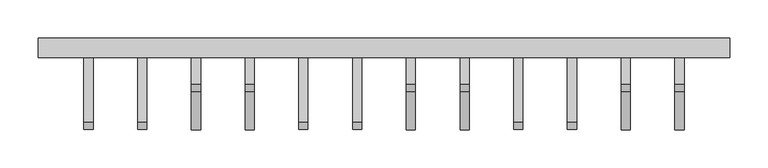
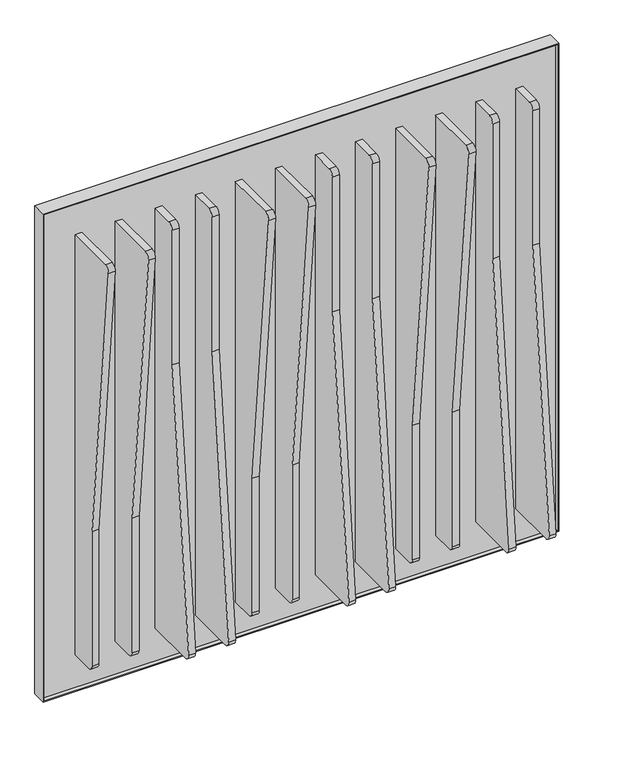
"""IFC4 building model written with IfcOpenShell, lengths in millimetres: proxy geometry, Frames_Plungle 4.3dm."""

from ifc_helpers import new_model, si_unit, point, frame, frame_2d, origin, place, context, project, spatial, polyline, circle_curve, trimmed, segment, composite_curve, outline, extrude, source, transform, mapped, element, save


def generic_models_126d4670(model_context):
    return source(origin(), model_context, "Body", "SweptSolid", [
        extrude(outline(composite_curve([segment(polyline([(99.527821, 599.6236441), (99.527821, 848.9350413), (49.8028267, 1356.5829839)]), True, "CONTINUOUS"), segment(trimmed(circle_curve(frame_2d((59.7551965, 1357.5578357)), 10.0), [point((49.8028267, 1356.5829839))], [point((59.7551965, 1367.5578357))], False, "CARTESIAN"), True, "CONTINUOUS"), segment(polyline([(59.7551965, 1367.5578357), (151.027821, 1367.5578357), (151.027821, 589.6236441), (109.527821, 589.6236441)]), True, "CONTINUOUS"), segment(trimmed(circle_curve(frame_2d((109.527821, 599.6236441)), 10.0), [point((109.527821, 589.6236441))], [point((99.527821, 599.6236441))], False, "CARTESIAN"), True, "CONTINUOUS")], self_intersect=False)), frame((4738.6213605, 0.0, 0.0), z_axis=(1.0, 0.0, 0.0), x_axis=(0.0, 1.0, 0.0)), (0.0, 0.0, 1.0), 12.0),
        extrude(outline(composite_curve([segment(polyline([(99.527821, 599.6236441), (99.527821, 848.9350413), (49.8028267, 1356.5829839)]), True, "CONTINUOUS"), segment(trimmed(circle_curve(frame_2d((59.7551965, 1357.5578357)), 10.0), [point((49.8028267, 1356.5829839))], [point((59.7551965, 1367.5578357))], False, "CARTESIAN"), True, "CONTINUOUS"), segment(polyline([(59.7551965, 1367.5578357), (151.027821, 1367.5578357), (151.027821, 589.6236441), (109.527821, 589.6236441)]), True, "CONTINUOUS"), segment(trimmed(circle_curve(frame_2d((109.527821, 599.6236441)), 10.0), [point((109.527821, 589.6236441))], [point((99.527821, 599.6236441))], False, "CARTESIAN"), True, "CONTINUOUS")], self_intersect=False)), frame((4668.3713605, 0.0, 0.0), z_axis=(1.0, 0.0, 0.0), x_axis=(0.0, 1.0, 0.0)), (0.0, 0.0, 1.0), 12.0),
        extrude(outline(composite_curve([segment(trimmed(circle_curve(frame_2d((109.527821, 1357.5578357)), 10.0), [point((99.527821, 1357.5578357))], [point((109.527821, 1367.5578357))], False, "CARTESIAN"), True, "CONTINUOUS"), segment(polyline([(109.527821, 1367.5578357), (151.027821, 1367.5578357), (151.027821, 589.6236441), (59.7551965, 589.6236441)]), True, "CONTINUOUS"), segment(trimmed(circle_curve(frame_2d((59.7551965, 599.6236441)), 10.0), [point((59.7551965, 589.6236441))], [point((49.8028267, 600.598496))], False, "CARTESIAN"), True, "CONTINUOUS"), segment(polyline([(49.8028267, 600.598496), (99.527821, 1108.2464385), (99.527821, 1357.5578357)]), True, "CONTINUOUS")], self_intersect=False)), frame((4879.1213605, 0.0, 0.0), z_axis=(1.0, 0.0, 0.0), x_axis=(0.0, 1.0, 0.0)), (0.0, 0.0, 1.0), 12.0),
        extrude(outline(composite_curve([segment(trimmed(circle_curve(frame_2d((109.527821, 1357.5578357)), 10.0), [point((99.527821, 1357.5578357))], [point((109.527821, 1367.5578357))], False, "CARTESIAN"), True, "CONTINUOUS"), segment(polyline([(109.527821, 1367.5578357), (151.027821, 1367.5578357), (151.027821, 589.6236441), (59.7551965, 589.6236441)]), True, "CONTINUOUS"), segment(trimmed(circle_curve(frame_2d((59.7551965, 599.6236441)), 10.0), [point((59.7551965, 589.6236441))], [point((49.8028267, 600.598496))], False, "CARTESIAN"), True, "CONTINUOUS"), segment(polyline([(49.8028267, 600.598496), (99.527821, 1108.2464385), (99.527821, 1357.5578357)]), True, "CONTINUOUS")], self_intersect=False)), frame((4808.8713605, 0.0, 0.0), z_axis=(1.0, 0.0, 0.0), x_axis=(0.0, 1.0, 0.0)), (0.0, 0.0, 1.0), 12.0),
        extrude(outline(composite_curve([segment(polyline([(99.527821, 599.6236441), (99.527821, 848.9350413), (49.8028267, 1356.5829839)]), True, "CONTINUOUS"), segment(trimmed(circle_curve(frame_2d((59.7551965, 1357.5578357)), 10.0), [point((49.8028267, 1356.5829839))], [point((59.7551965, 1367.5578357))], False, "CARTESIAN"), True, "CONTINUOUS"), segment(polyline([(59.7551965, 1367.5578357), (151.027821, 1367.5578357), (151.027821, 589.6236441), (109.527821, 589.6236441)]), True, "CONTINUOUS"), segment(trimmed(circle_curve(frame_2d((109.527821, 599.6236441)), 10.0), [point((109.527821, 589.6236441))], [point((99.527821, 599.6236441))], False, "CARTESIAN"), True, "CONTINUOUS")], self_intersect=False)), frame((5019.6213605, 0.0, 0.0), z_axis=(1.0, 0.0, 0.0), x_axis=(0.0, 1.0, 0.0)), (0.0, 0.0, 1.0), 12.0),
        extrude(outline(composite_curve([segment(polyline([(99.527821, 599.6236441), (99.527821, 848.9350413), (49.8028267, 1356.5829839)]), True, "CONTINUOUS"), segment(trimmed(circle_curve(frame_2d((59.7551965, 1357.5578357)), 10.0), [point((49.8028267, 1356.5829839))], [point((59.7551965, 1367.5578357))], False, "CARTESIAN"), True, "CONTINUOUS"), segment(polyline([(59.7551965, 1367.5578357), (151.027821, 1367.5578357), (151.027821, 589.6236441), (109.527821, 589.6236441)]), True, "CONTINUOUS"), segment(trimmed(circle_curve(frame_2d((109.527821, 599.6236441)), 10.0), [point((109.527821, 589.6236441))], [point((99.527821, 599.6236441))], False, "CARTESIAN"), True, "CONTINUOUS")], self_intersect=False)), frame((4949.3713605, 0.0, 0.0), z_axis=(1.0, 0.0, 0.0), x_axis=(0.0, 1.0, 0.0)), (0.0, 0.0, 1.0), 12.0),
        extrude(outline(composite_curve([segment(trimmed(circle_curve(frame_2d((109.527821, 1357.5578357)), 10.0), [point((99.527821, 1357.5578357))], [point((109.527821, 1367.5578357))], False, "CARTESIAN"), True, "CONTINUOUS"), segment(polyline([(109.527821, 1367.5578357), (151.027821, 1367.5578357), (151.027821, 589.6236441), (59.7551965, 589.6236441)]), True, "CONTINUOUS"), segment(trimmed(circle_curve(frame_2d((59.7551965, 599.6236441)), 10.0), [point((59.7551965, 589.6236441))], [point((49.8028267, 600.598496))], False, "CARTESIAN"), True, "CONTINUOUS"), segment(polyline([(49.8028267, 600.598496), (99.527821, 1108.2464385), (99.527821, 1357.5578357)]), True, "CONTINUOUS")], self_intersect=False)), frame((5160.1213605, 0.0, 0.0), z_axis=(1.0, 0.0, 0.0), x_axis=(0.0, 1.0, 0.0)), (0.0, 0.0, 1.0), 12.0),
        extrude(outline(composite_curve([segment(trimmed(circle_curve(frame_2d((109.527821, 1357.5578357)), 10.0), [point((99.527821, 1357.5578357))], [point((109.527821, 1367.5578357))], False, "CARTESIAN"), True, "CONTINUOUS"), segment(polyline([(109.527821, 1367.5578357), (151.027821, 1367.5578357), (151.027821, 589.6236441), (59.7551965, 589.6236441)]), True, "CONTINUOUS"), segment(trimmed(circle_curve(frame_2d((59.7551965, 599.6236441)), 10.0), [point((59.7551965, 589.6236441))], [point((49.8028267, 600.598496))], False, "CARTESIAN"), True, "CONTINUOUS"), segment(polyline([(49.8028267, 600.598496), (99.527821, 1108.2464385), (99.527821, 1357.5578357)]), True, "CONTINUOUS")], self_intersect=False)), frame((5089.8713605, 0.0, 0.0), z_axis=(1.0, 0.0, 0.0), x_axis=(0.0, 1.0, 0.0)), (0.0, 0.0, 1.0), 12.0),
        extrude(outline(composite_curve([segment(polyline([(99.527821, 599.6236441), (99.527821, 848.9350413), (49.8028267, 1356.5829839)]), True, "CONTINUOUS"), segment(trimmed(circle_curve(frame_2d((59.7551965, 1357.5578357)), 10.0), [point((49.8028267, 1356.5829839))], [point((59.7551965, 1367.5578357))], False, "CARTESIAN"), True, "CONTINUOUS"), segment(polyline([(59.7551965, 1367.5578357), (151.027821, 1367.5578357), (151.027821, 589.6236441), (109.527821, 589.6236441)]), True, "CONTINUOUS"), segment(trimmed(circle_curve(frame_2d((109.527821, 599.6236441)), 10.0), [point((109.527821, 589.6236441))], [point((99.527821, 599.6236441))], False, "CARTESIAN"), True, "CONTINUOUS")], self_intersect=False)), frame((5300.6213605, 0.0, 0.0), z_axis=(1.0, 0.0, 0.0), x_axis=(0.0, 1.0, 0.0)), (0.0, 0.0, 1.0), 12.0),
        extrude(outline(composite_curve([segment(polyline([(99.527821, 599.6236441), (99.527821, 848.9350413), (49.8028267, 1356.5829839)]), True, "CONTINUOUS"), segment(trimmed(circle_curve(frame_2d((59.7551965, 1357.5578357)), 10.0), [point((49.8028267, 1356.5829839))], [point((59.7551965, 1367.5578357))], False, "CARTESIAN"), True, "CONTINUOUS"), segment(polyline([(59.7551965, 1367.5578357), (151.027821, 1367.5578357), (151.027821, 589.6236441), (109.527821, 589.6236441)]), True, "CONTINUOUS"), segment(trimmed(circle_curve(frame_2d((109.527821, 599.6236441)), 10.0), [point((109.527821, 589.6236441))], [point((99.527821, 599.6236441))], False, "CARTESIAN"), True, "CONTINUOUS")], self_intersect=False)), frame((5230.3713605, 0.0, 0.0), z_axis=(1.0, 0.0, 0.0), x_axis=(0.0, 1.0, 0.0)), (0.0, 0.0, 1.0), 12.0),
        extrude(outline(composite_curve([segment(trimmed(circle_curve(frame_2d((109.527821, 1357.5578357)), 10.0), [point((99.527821, 1357.5578357))], [point((109.527821, 1367.5578357))], False, "CARTESIAN"), True, "CONTINUOUS"), segment(polyline([(109.527821, 1367.5578357), (151.027821, 1367.5578357), (151.027821, 589.6236441), (59.7551965, 589.6236441)]), True, "CONTINUOUS"), segment(trimmed(circle_curve(frame_2d((59.7551965, 599.6236441)), 10.0), [point((59.7551965, 589.6236441))], [point((49.8028267, 600.598496))], False, "CARTESIAN"), True, "CONTINUOUS"), segment(polyline([(49.8028267, 600.598496), (99.527821, 1108.2464385), (99.527821, 1357.5578357)]), True, "CONTINUOUS")], self_intersect=False)), frame((5441.1213605, 0.0, 0.0), z_axis=(1.0, 0.0, 0.0), x_axis=(0.0, 1.0, 0.0)), (0.0, 0.0, 1.0), 12.0),
        extrude(outline(composite_curve([segment(trimmed(circle_curve(frame_2d((109.527821, 1357.5578357)), 10.0), [point((99.527821, 1357.5578357))], [point((109.527821, 1367.5578357))], False, "CARTESIAN"), True, "CONTINUOUS"), segment(polyline([(109.527821, 1367.5578357), (151.027821, 1367.5578357), (151.027821, 589.6236441), (59.7551965, 589.6236441)]), True, "CONTINUOUS"), segment(trimmed(circle_curve(frame_2d((59.7551965, 599.6236441)), 10.0), [point((59.7551965, 589.6236441))], [point((49.8028267, 600.598496))], False, "CARTESIAN"), True, "CONTINUOUS"), segment(polyline([(49.8028267, 600.598496), (99.527821, 1108.2464385), (99.527821, 1357.5578357)]), True, "CONTINUOUS")], self_intersect=False)), frame((5370.8713605, 0.0, 0.0), z_axis=(1.0, 0.0, 0.0), x_axis=(0.0, 1.0, 0.0)), (0.0, 0.0, 1.0), 12.0),
        extrude(outline(polyline([(5510.7463605, 151.027821), (4610.7463605, 151.027821), (4610.7463605, 163.027821), (5510.7463605, 163.027821), (5510.7463605, 151.027821)])), frame((0.0, 0.0, 528.5907399), z_axis=(0.0, 0.0, 1.0), x_axis=(1.0, 0.0, 0.0)), (0.0, 0.0, 1.0), 900.0),
        extrude(outline(polyline([(526.5907399, 5512.7463605), (1430.5907399, 5512.7463605), (1430.5907399, 4608.7463605), (526.5907399, 4608.7463605), (526.5907399, 5512.7463605)]), holes=[polyline([(528.5907399, 5510.7463605), (528.5907399, 4610.7463605), (1428.5907399, 4610.7463605), (1428.5907399, 5510.7463605), (528.5907399, 5510.7463605)])]), frame((0.0, 144.327821, 0.0), z_axis=(0.0, 1.0, 0.0), x_axis=(0.0, 0.0, 1.0)), (0.0, 0.0, 1.0), 25.4),
    ])


if __name__ == "__main__":
    model = new_model("IFC4")
    model_context = context("Model", 3, world=origin())
    ifc_project = project(units=[si_unit("LENGTHUNIT", "METRE", prefix="MILLI")], contexts=[model_context])
    site = spatial("IfcSite", under=ifc_project)
    building = spatial("IfcBuilding", under=site)
    placement = place(None, origin())
    generic_models_shape = generic_models_126d4670(model_context)
    element("IfcBuildingElementProxy", 1, Name="Frames_Plungle 4.3dm", ObjectType="Frames_Plungle 4.3dm", at=placement, inside=building, context=model_context, shape_type="MappedRepresentation", body=[
        mapped(generic_models_shape, transform((0.0, 0.0, 0.0), x_axis=(1.0, 0.0, 0.0), y_axis=(0.0, 1.0, 0.0), z_axis=(0.0, 0.0, 1.0))),
    ])
    save(model, "model.ifc")
